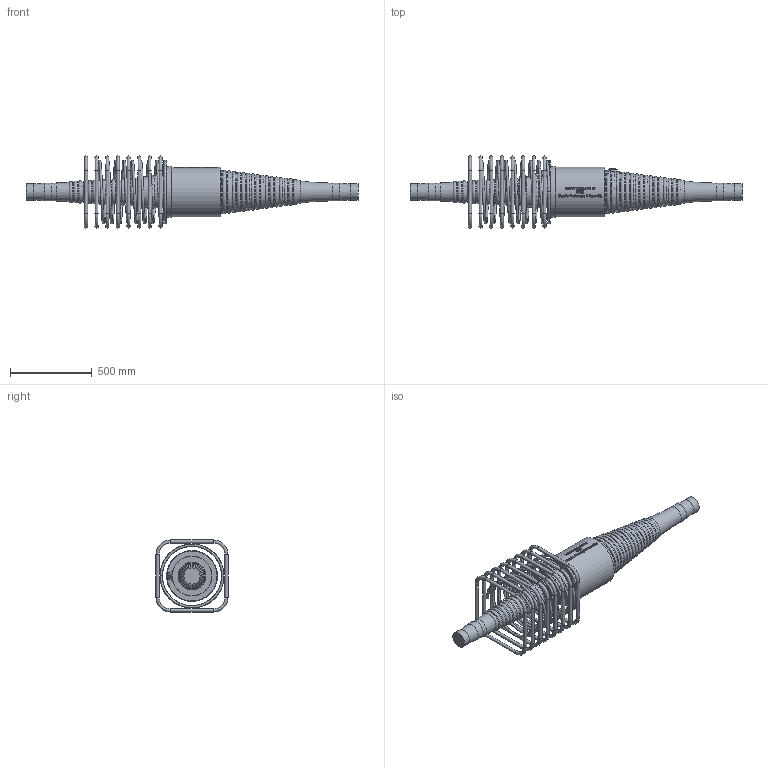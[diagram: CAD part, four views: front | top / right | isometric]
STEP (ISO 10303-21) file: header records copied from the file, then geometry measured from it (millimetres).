
FILE_DESCRIPTION(/* description */ (''),/* implementation_level */ '2;1');
FILE_NAME(/* name */ 'BBR VT CONA CMI BT 2206_Coupler H Assembly_CS-34,28.stp',/* time_stamp */ '2025-05-14T13:32:30+02:00',/* author */ ('tk'),/* organization */ (''),/* preprocessor_version */ 'ST-DEVELOPER v20',/* originating_system */ 'Autodesk Inventor 2024',/* authorisation */ '');
FILE_SCHEMA (('AUTOMOTIVE_DESIGN { 1 0 10303 214 3 1 1 }'));
Products named in the file (1): BBR VT CONA CMI BT 2206_Coupler H Assembly_CS-34,28
Bounding box: 2027.13 x 440 x 440 mm (x, y, z)
Volume: 64549996.2 mm3; surface area: 2588374.3 mm2
Topology: 10 solids, 10 shells, 982 faces, 2638 edges, 1718 vertices
Faces by surface type: bspline 384, plane 302, torus 143, cylinder 115, cone 36, sphere 2
Full cylindrical faces by diameter (mm): 20 x32, 33 x1, 56 x1, 99 x2, 109 x2, 187 x1, 243.942 x1, 305 x1, 310 x1
Entity records: 46050 total; most frequent: CARTESIAN_POINT 22910, ORIENTED_EDGE 5256, DIRECTION 3926, EDGE_CURVE 2628, VERTEX_POINT 1718, AXIS2_PLACEMENT_3D 1467, EDGE_LOOP 1052, LINE 992
